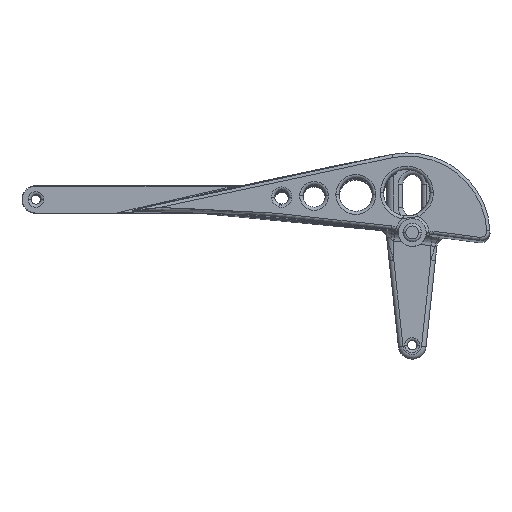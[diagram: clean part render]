
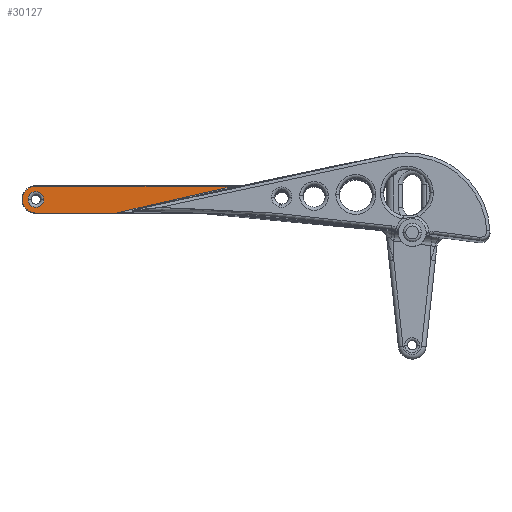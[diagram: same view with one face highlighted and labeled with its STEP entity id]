
A CAD part, top view. The second image highlights one B-rep face of the part: STEP entity #30127.
In plain terms, the highlighted planar face has unit normal (0, 0, 1).
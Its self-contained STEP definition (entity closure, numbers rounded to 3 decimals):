
#386 = CARTESIAN_POINT ( 'NONE',  ( 11.369, 2.95, 2.5 ) ) ;
#615 = CARTESIAN_POINT ( 'NONE',  ( 0.988, 0.589, 2.5 ) ) ;
#709 = DIRECTION ( 'NONE',  ( 1., 0., 0. ) ) ;
#745 = VERTEX_POINT ( 'NONE', #14081 ) ;
#1020 = VECTOR ( 'NONE', #709, 1000. ) ;
#1237 = VERTEX_POINT ( 'NONE', #386 ) ;
#1376 = CIRCLE ( 'NONE', #14233, 1.45 ) ;
#1593 = FACE_OUTER_BOUND ( 'NONE', #20703, .T. ) ;
#1680 = EDGE_CURVE ( 'NONE', #745, #1237, #25823, .T. ) ;
#1745 = VERTEX_POINT ( 'NONE', #14953 ) ;
#1943 = EDGE_CURVE ( 'NONE', #1745, #745, #26004, .T. ) ;
#2101 = ORIENTED_EDGE ( 'NONE', *, *, #16511, .T. ) ;
#2653 = ORIENTED_EDGE ( 'NONE', *, *, #1680, .T. ) ;
#3526 = CARTESIAN_POINT ( 'NONE',  ( -10., 1.5, 2.5 ) ) ;
#3537 = EDGE_CURVE ( 'NONE', #29204, #1745, #8657, .T. ) ;
#5499 = CARTESIAN_POINT ( 'NONE',  ( 1.228, 0.644, 2.5 ) ) ;
#6346 = CARTESIAN_POINT ( 'NONE',  ( 13.218, 2.95, 2.5 ) ) ;
#6570 = VERTEX_POINT ( 'NONE', #27424 ) ;
#6726 = DIRECTION ( 'NONE',  ( -1., 0., 0. ) ) ;
#7066 = EDGE_CURVE ( 'NONE', #26754, #20506, #24264, .T. ) ;
#7209 = CARTESIAN_POINT ( 'NONE',  ( -10., 1.5, 2.5 ) ) ;
#7761 = CARTESIAN_POINT ( 'NONE',  ( 0.869, 0.561, 2.5 ) ) ;
#8617 = CARTESIAN_POINT ( 'NONE',  ( 0.543, 0.486, 2.5 ) ) ;
#8657 = LINE ( 'NONE', #15288, #1020 ) ;
#9259 = DIRECTION ( 'NONE',  ( 0., 0., -1. ) ) ;
#9311 = CARTESIAN_POINT ( 'NONE',  ( -1.019, 0.122, 2.5 ) ) ;
#9764 = VECTOR ( 'NONE', #28230, 1000. ) ;
#11091 = CARTESIAN_POINT ( 'NONE',  ( 0.629, 0.505, 2.5 ) ) ;
#11417 = DIRECTION ( 'NONE',  ( -1., 0., 0. ) ) ;
#11499 = CARTESIAN_POINT ( 'NONE',  ( -10., 1.5, 2.5 ) ) ;
#11589 = CARTESIAN_POINT ( 'NONE',  ( 4.685, 1.445, 2.5 ) ) ;
#12109 = DIRECTION ( 'NONE',  ( 0., 0., -1. ) ) ;
#12726 = ORIENTED_EDGE ( 'NONE', *, *, #24734, .T. ) ;
#13277 = CARTESIAN_POINT ( 'NONE',  ( -1.174, 0.086, 2.5 ) ) ;
#13560 = AXIS2_PLACEMENT_3D ( 'NONE', #11499, #9259, #18707 ) ;
#13978 = CARTESIAN_POINT ( 'NONE',  ( -10., 2.95, 2.5 ) ) ;
#14081 = CARTESIAN_POINT ( 'NONE',  ( 1.348, 0.672, 2.5 ) ) ;
#14127 = CARTESIAN_POINT ( 'NONE',  ( 8.025, 2.207, 2.5 ) ) ;
#14233 = AXIS2_PLACEMENT_3D ( 'NONE', #3526, #30041, #11417 ) ;
#14692 = CIRCLE ( 'NONE', #13560, 0.85 ) ;
#14953 = CARTESIAN_POINT ( 'NONE',  ( -1.33, 0.05, 2.5 ) ) ;
#15077 = DIRECTION ( 'NONE',  ( 0., 0., 1. ) ) ;
#15288 = CARTESIAN_POINT ( 'NONE',  ( 13.218, 0.05, 2.5 ) ) ;
#16511 = EDGE_CURVE ( 'NONE', #20506, #29204, #1376, .T. ) ;
#16865 = EDGE_LOOP ( 'NONE', ( #12726, #17296 ) ) ;
#17137 = CARTESIAN_POINT ( 'NONE',  ( -0.409, 0.264, 2.5 ) ) ;
#17296 = ORIENTED_EDGE ( 'NONE', *, *, #18578, .T. ) ;
#17625 = CARTESIAN_POINT ( 'NONE',  ( 1.108, 0.617, 2.5 ) ) ;
#18386 = ORIENTED_EDGE ( 'NONE', *, *, #7066, .T. ) ;
#18489 = CARTESIAN_POINT ( 'NONE',  ( 0.046, 0.37, 2.5 ) ) ;
#18535 = DIRECTION ( 'NONE',  ( 0., 0., -1. ) ) ;
#18550 = CARTESIAN_POINT ( 'NONE',  ( -0.863, 0.159, 2.5 ) ) ;
#18578 = EDGE_CURVE ( 'NONE', #20978, #6570, #25834, .T. ) ;
#18637 = CARTESIAN_POINT ( 'NONE',  ( 13.218, 1.5, 2.5 ) ) ;
#18707 = DIRECTION ( 'NONE',  ( -1., 0., 0. ) ) ;
#18721 = CARTESIAN_POINT ( 'NONE',  ( 0.749, 0.533, 2.5 ) ) ;
#18838 = LINE ( 'NONE', #6346, #9764 ) ;
#19856 = DIRECTION ( 'NONE',  ( -1., 0., 0. ) ) ;
#19932 = CARTESIAN_POINT ( 'NONE',  ( -10., 0.05, 2.5 ) ) ;
#20506 = VERTEX_POINT ( 'NONE', #30260 ) ;
#20703 = EDGE_LOOP ( 'NONE', ( #2653, #26372, #18386, #2101, #27251, #31335 ) ) ;
#20978 = VERTEX_POINT ( 'NONE', #25848 ) ;
#21371 = AXIS2_PLACEMENT_3D ( 'NONE', #18637, #18535, #6726 ) ;
#23178 = CARTESIAN_POINT ( 'NONE',  ( 0.5, 0.476, 2.5 ) ) ;
#23630 = PLANE ( 'NONE',  #21371 ) ;
#23652 = AXIS2_PLACEMENT_3D ( 'NONE', #7209, #12109, #28874 ) ;
#24264 = CIRCLE ( 'NONE', #24493, 1.45 ) ;
#24433 = CARTESIAN_POINT ( 'NONE',  ( -10., 1.5, 2.5 ) ) ;
#24493 = AXIS2_PLACEMENT_3D ( 'NONE', #24433, #15077, #19856 ) ;
#24734 = EDGE_CURVE ( 'NONE', #6570, #20978, #14692, .T. ) ;
#25315 = EDGE_CURVE ( 'NONE', #1237, #26754, #18838, .T. ) ;
#25407 = CARTESIAN_POINT ( 'NONE',  ( -1.33, 0.05, 2.5 ) ) ;
#25649 = CARTESIAN_POINT ( 'NONE',  ( 0.586, 0.495, 2.5 ) ) ;
#25748 = CARTESIAN_POINT ( 'NONE',  ( 1.348, 0.672, 2.5 ) ) ;
#25823 = B_SPLINE_CURVE_WITH_KNOTS ( 'NONE', 3,
 ( #25748, #11589, #14127, #26346 ),
 .UNSPECIFIED., .F., .F.,
 ( 4, 4 ),
 ( 0., 0.01 ),
 .UNSPECIFIED. ) ;
#25834 = CIRCLE ( 'NONE', #23652, 0.85 ) ;
#25848 = CARTESIAN_POINT ( 'NONE',  ( -9.15, 1.5, 2.5 ) ) ;
#26004 = B_SPLINE_CURVE_WITH_KNOTS ( 'NONE', 3,
 ( #25407, #13277, #9311, #18550, #17137, #18489, #23178, #8617, #25649, #11091, #18721, #7761, #615, #17625, #5499, #29894 ),
 .UNSPECIFIED., .F., .F.,
 ( 4, 3, 3, 3, 3, 4 ),
 ( 0., 0.001, 0.002, 0.002, 0.003, 0.003 ),
 .UNSPECIFIED. ) ;
#26346 = CARTESIAN_POINT ( 'NONE',  ( 11.369, 2.95, 2.5 ) ) ;
#26372 = ORIENTED_EDGE ( 'NONE', *, *, #25315, .T. ) ;
#26754 = VERTEX_POINT ( 'NONE', #13978 ) ;
#27251 = ORIENTED_EDGE ( 'NONE', *, *, #3537, .T. ) ;
#27424 = CARTESIAN_POINT ( 'NONE',  ( -10.85, 1.5, 2.5 ) ) ;
#27489 = FACE_BOUND ( 'NONE', #16865, .T. ) ;
#28230 = DIRECTION ( 'NONE',  ( -1., 0., 0. ) ) ;
#28874 = DIRECTION ( 'NONE',  ( -1., 0., 0. ) ) ;
#29204 = VERTEX_POINT ( 'NONE', #19932 ) ;
#29894 = CARTESIAN_POINT ( 'NONE',  ( 1.348, 0.672, 2.5 ) ) ;
#30041 = DIRECTION ( 'NONE',  ( 0., 0., 1. ) ) ;
#30127 = ADVANCED_FACE ( 'NONE', ( #27489, #1593 ), #23630, .F. ) ;
#30260 = CARTESIAN_POINT ( 'NONE',  ( -11.45, 1.5, 2.5 ) ) ;
#31335 = ORIENTED_EDGE ( 'NONE', *, *, #1943, .T. ) ;
